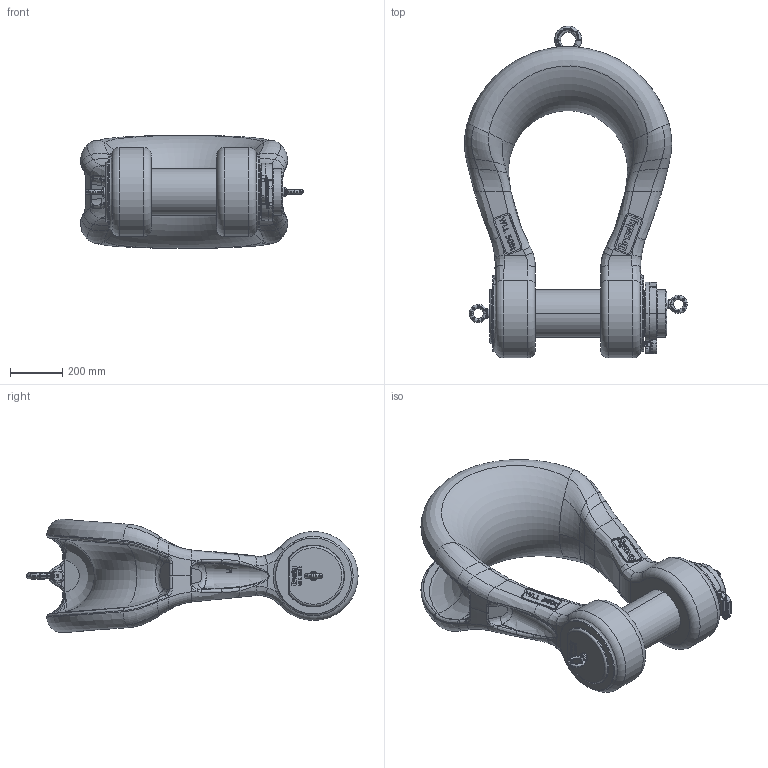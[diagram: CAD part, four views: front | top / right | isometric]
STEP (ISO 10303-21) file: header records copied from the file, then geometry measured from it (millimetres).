
FILE_DESCRIPTION((''),'2;1');
FILE_NAME('1021346_ASM','2024-09-04T11:36:45',('justin.lewis'),('The Crosby Group LLC'),'CREO PARAMETRIC BY PTC INC, 2021304','CREO PARAMETRIC BY PTC INC, 2021304','');
FILE_SCHEMA(('CONFIG_CONTROL_DESIGN','GEOMETRIC_VALIDATION_PROPERTIES_MIM'));
Length unit declared in the file: millimetre
Products named in the file (14): 0829-000500-D000-11; 0830-010500-D000-11; 1045995; 2038014; 3507862; 2038006; 2038004; 2038021_ASM; 1502892; 1515868; 88344; 59019; 1019533_ASM; 1021346_ASM
Assembly tree (17 placements, depth 3):
  1021346_ASM
    0829-000500-D000-11
    0830-010500-D000-11
    1045995  x2
    2038021_ASM
      2038014  x2
      3507862  x2
      2038006
      2038004  x2
    1019533_ASM
      1502892
      1515868
      88344
      59019
Bounding box: 852.55 x 1269.41 x 433.55 mm (x, y, z)
Volume: 99270606 mm3; surface area: 3187713.9 mm2
Topology: 15 solids, 23 shells, 4412 faces, 14792 edges, 11377 vertices
Faces by surface type: extrusion 1563, plane 1390, bspline 575, torus 315, cylinder 300, cone 166, revolution 63, sphere 40
Entity records: 261902 total; most frequent: CARTESIAN_POINT 127085, ORIENTED_EDGE 16283, PRESENTATION_STYLE_ASSIGNMENT 15021, STYLED_ITEM 15021, CURVE_STYLE 11907, DIRECTION 10861, EDGE_CURVE 8160, B_SPLINE_CURVE_WITH_KNOTS 6439
